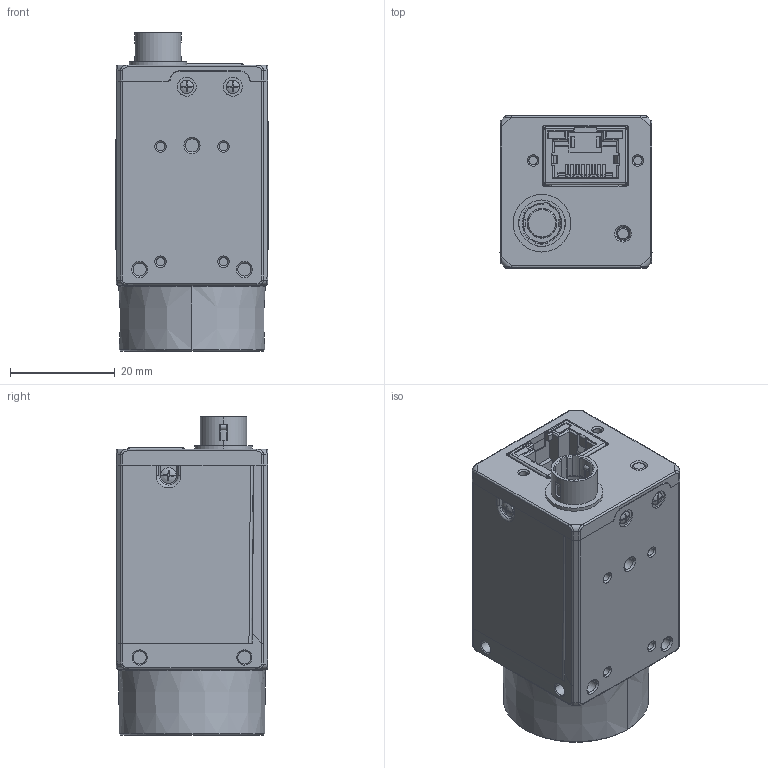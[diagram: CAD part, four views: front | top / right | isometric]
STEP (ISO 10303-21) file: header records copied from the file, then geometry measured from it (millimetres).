
FILE_DESCRIPTION((''),'2;1');
FILE_NAME('MV-CH120-11GM_ASM_ASM','2021-01-27T21:48:02',('sunli10'),(''),'CREO PARAMETRIC BY PTC INC, 2017260','CREO PARAMETRIC BY PTC INC, 2017260','');
FILE_SCHEMA(('CONFIG_CONTROL_DESIGN'));
Products named in the file (3): MSBR-2; MSBR-1; MV-CH120-11GM_ASM_ASM
Assembly tree (2 placements, depth 2):
  MV-CH120-11GM_ASM_ASM
    MSBR-2
    MSBR-1
Bounding box: 29.03 x 29 x 60.78 mm (x, y, z)
Volume: 35932.2 mm3; surface area: 14767.7 mm2
Topology: 2 solids, 20 shells, 1739 faces, 4789 edges, 3079 vertices
Faces by surface type: plane 1062, cylinder 489, cone 72, bspline 65, torus 26, sphere 18, extrusion 7
Entity records: 60276 total; most frequent: CARTESIAN_POINT 15960, ORIENTED_EDGE 9570, DIRECTION 8860, EDGE_CURVE 4785, VECTOR 3196, LINE 3189, VERTEX_POINT 3079, AXIS2_PLACEMENT_3D 2832
